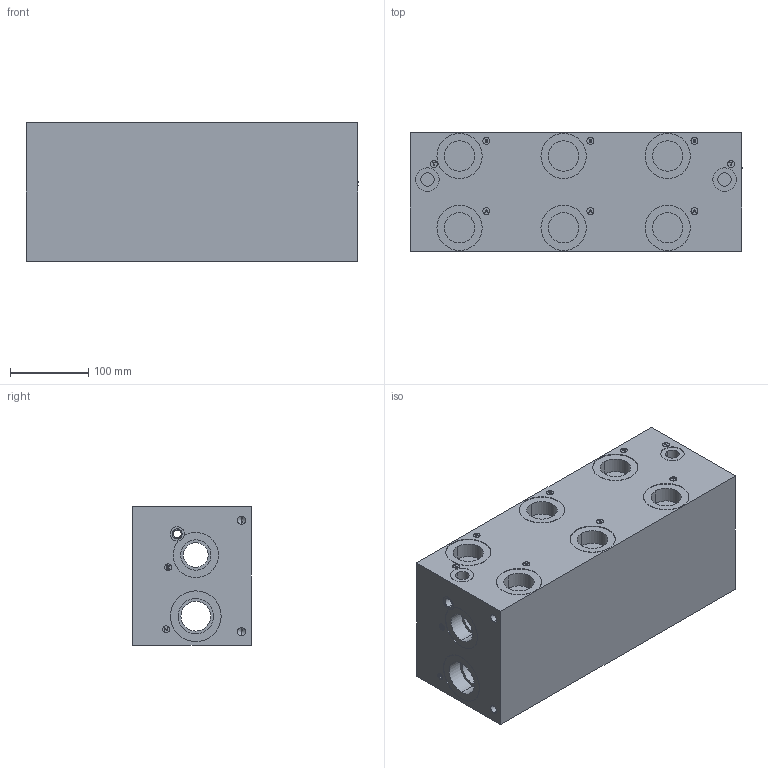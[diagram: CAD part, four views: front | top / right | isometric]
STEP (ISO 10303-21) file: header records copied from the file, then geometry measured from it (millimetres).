
FILE_DESCRIPTION (( 'STEP AP203' ), '1' );
FILE_NAME ('BMR-AHP08S5-03-1_Z.STEP', '2015-01-06T16:24:29', ( '' ), ( '' ), 'SwSTEP 2.0', 'SolidWorks 2014', '' );
FILE_SCHEMA (( 'CONFIG_CONTROL_DESIGN' ));
Length unit declared in the file: inch
Products named in the file (1): BMR-AHP08S5-03-1_Z
Bounding box: 425.45 x 152.4 x 177.8 mm (x, y, z)
Volume: 10361475.9 mm3; surface area: 487008.4 mm2
Topology: 1 solids, 1 shells, 604 faces, 1451 edges, 888 vertices
Faces by surface type: plane 247, cylinder 218, cone 92, bspline 47
Entity records: 19640 total; most frequent: CARTESIAN_POINT 5899, DIRECTION 2821, ORIENTED_EDGE 2718, EDGE_CURVE 1359, AXIS2_PLACEMENT_3D 998, VERTEX_POINT 888, VECTOR 825, LINE 825
